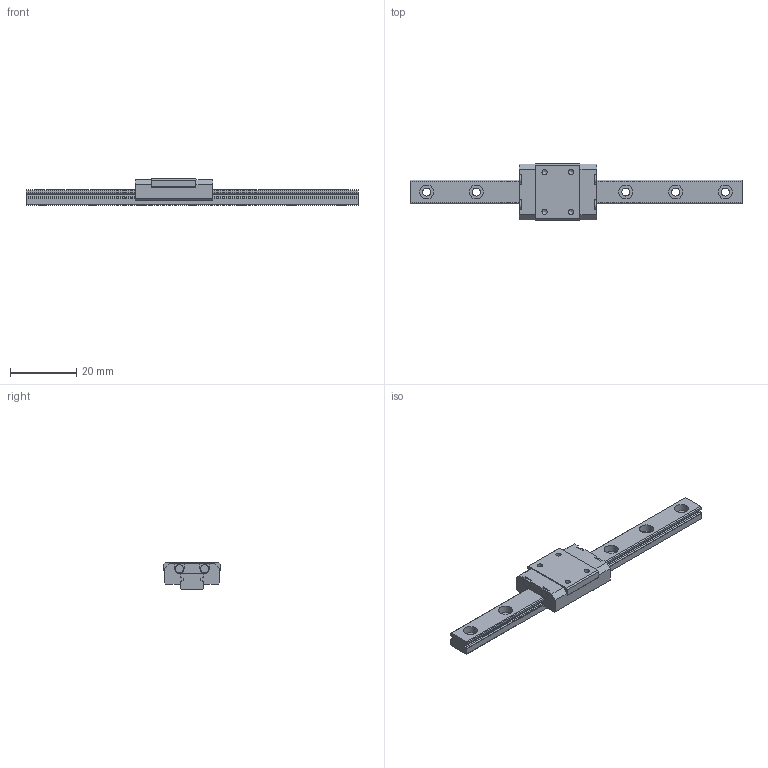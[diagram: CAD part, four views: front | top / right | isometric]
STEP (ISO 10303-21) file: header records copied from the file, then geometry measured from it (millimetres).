
FILE_DESCRIPTION((''),'2;1');
FILE_NAME('D:\製品 (図面)\カタログ用3D\リニアガイド関連\STEP形式\LGM\LGM7.stp','2010-06-02T15:54:47',('Tsuchiya'),(''),'Autodesk Inventor 10','Autodesk Inventor 10','');
FILE_SCHEMA(('AUTOMOTIVE_DESIGN { 1 0 10303 214 1 1 1 1 }'));
Length unit declared in the file: millimetre
Products named in the file (3): LGM7; LGM71; LGM72
Assembly tree (2 placements, depth 2):
  LGM7
    LGM71
    LGM72
Bounding box: 100 x 17 x 8 mm (x, y, z)
Volume: 4759.7 mm3; surface area: 4334.7 mm2
Topology: 2 solids, 2 shells, 123 faces, 324 edges, 216 vertices
Faces by surface type: plane 60, bspline 39, cylinder 24
Full cylindrical faces by diameter (mm): 2.5 x2
Entity records: 4050 total; most frequent: CARTESIAN_POINT 1107, ORIENTED_EDGE 580, DIRECTION 560, EDGE_CURVE 290, VERTEX_POINT 208, VECTOR 198, LINE 198, AXIS2_PLACEMENT_3D 181
